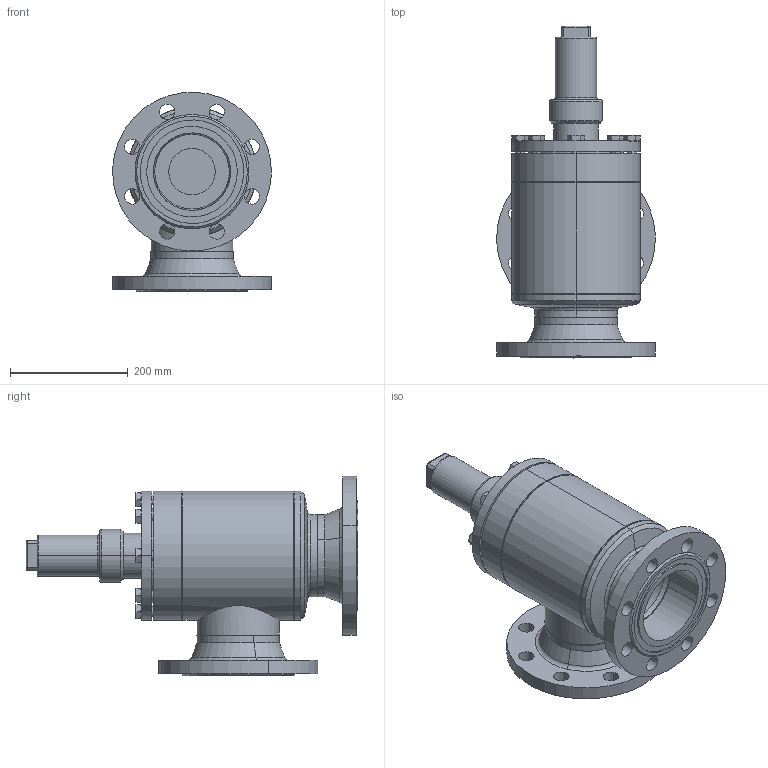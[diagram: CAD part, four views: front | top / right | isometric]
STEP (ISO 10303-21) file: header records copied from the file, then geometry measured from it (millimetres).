
FILE_DESCRIPTION (( 'STEP AP214' ), '1' );
FILE_NAME ('RVAK27420D20-DN125_DIN-FL-N_PS40.STEP', '2006-04-27T14:05:28', ( 'Herr Grams' ), ( 'AWP GmbH' ), 'SwSTEP 2.0', 'SolidWorks 2002296', '' );
FILE_SCHEMA (( 'AUTOMOTIVE_DESIGN' ));
Length unit declared in the file: millimetre
Products named in the file (15): RVAK27420D20-DN125_DIN-FL-N_PS40; Kappe16402_DN125-150_Standard; RVA29300E20_Deck-Schr-DN125_Standard; Deckel29300E20-DN125_Standard; Sechskantschraube-DIN933_M16x 45; Gehäuse-kpl16420-DN125_DIN_PS40_Standard; Gehäuse16300-DN125_Standard; Kopfstück16300-DN125_Standard; Boden16300-DN125_Standard; bead-DN125-2_Standard; bead-DN125-1_Standard; Flansch-DIN-Nut_PS40_DIN-Flansch-DN125_PS40-Nut; Rohrstutzen-A16300-DN125_R1_Standard; bead-DN125-3_Standard; bead-DN125-4_Standard
Assembly tree (22 placements, depth 3):
  RVAK27420D20-DN125_DIN-FL-N_PS40
    Gehäuse-kpl16420-DN125_DIN_PS40_Standard
      Boden16300-DN125_Standard
      bead-DN125-2_Standard
      Flansch-DIN-Nut_PS40_DIN-Flansch-DN125_PS40-Nut  x2
      Kopfstück16300-DN125_Standard
      Gehäuse16300-DN125_Standard
      bead-DN125-3_Standard
      bead-DN125-1_Standard
      Rohrstutzen-A16300-DN125_R1_Standard
      bead-DN125-4_Standard
    Kappe16402_DN125-150_Standard
    RVA29300E20_Deck-Schr-DN125_Standard
      Sechskantschraube-DIN933_M16x 45  x8
      Deckel29300E20-DN125_Standard
Bounding box: 269.74 x 564 x 338.87 mm (x, y, z)
Volume: 7720344.4 mm3; surface area: 1129273.4 mm2
Topology: 20 solids, 20 shells, 431 faces, 960 edges, 578 vertices
Faces by surface type: cylinder 141, cone 134, plane 124, torus 16, bspline 16
Entity records: 9531 total; most frequent: CARTESIAN_POINT 3729, DIRECTION 1112, ORIENTED_EDGE 984, EDGE_CURVE 492, AXIS2_PLACEMENT_3D 485, VERTEX_POINT 304, EDGE_LOOP 276, CIRCLE 256
